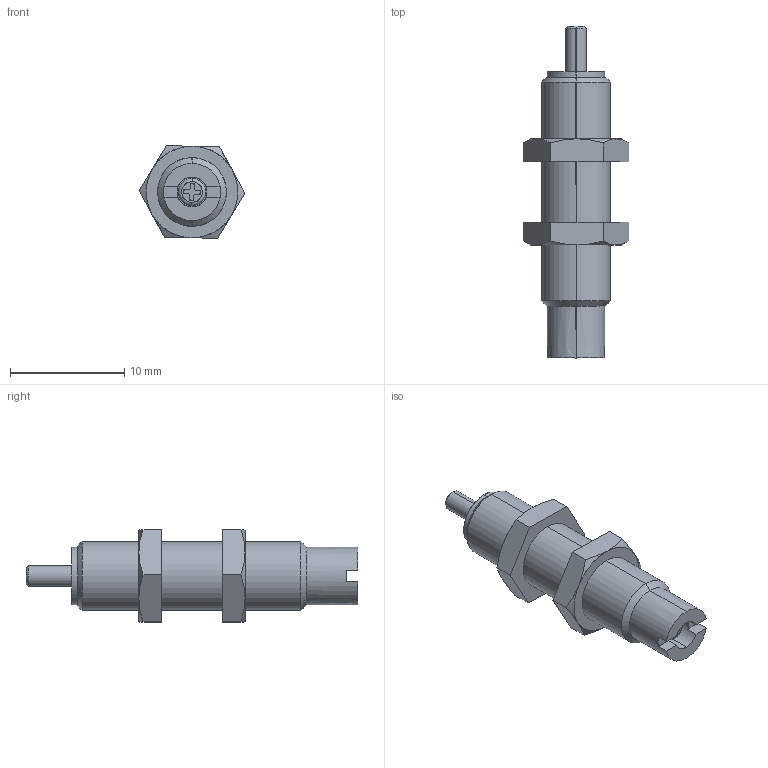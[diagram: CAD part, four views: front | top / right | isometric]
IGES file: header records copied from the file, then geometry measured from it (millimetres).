
Start section: SolidWorks IGES file using analytic representation for surfaces
Bounding box: 9.24 x 29 x 8.1 mm (x, y, z)
Surface area: 844 mm2 (no closed solid volume)
Topology: 0 solids, 0 shells, 58 faces, 732 edges, 732 vertices
Faces by surface type: bspline 30, revolution 28
